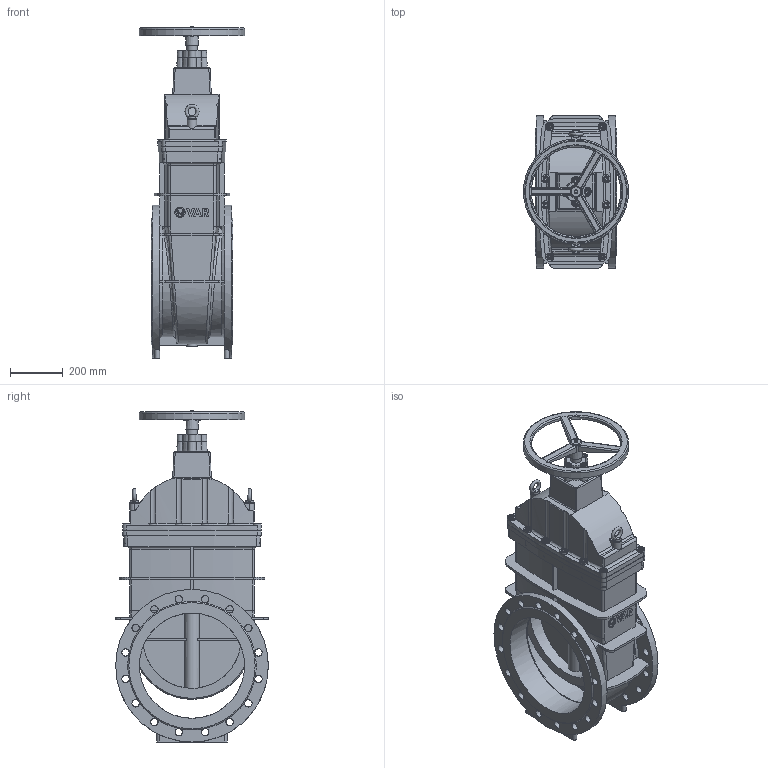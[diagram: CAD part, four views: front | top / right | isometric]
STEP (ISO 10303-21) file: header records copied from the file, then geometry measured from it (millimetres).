
FILE_DESCRIPTION(('STEP AP242'), '1');
FILE_NAME('青溻桄赅', '', ('UNSPECIFIED'), ('UNSPECIFIED'), 'C3D Converter', 'C3D Toolkit', '');
FILE_SCHEMA(('AP242_MANAGED_MODEL_BASED_3D_ENGINEERING_MIM_LF { 1 0 10303 442 1 1 4 }'));
Length unit declared in the file: millimetre
Assembly tree (27 placements, depth 2):
  (unnamed)
    (unnamed)
    (unnamed)
    (unnamed)
    (unnamed)
    (unnamed)  x2
    (unnamed)
    (unnamed)
    (unnamed)  x12
    (unnamed)  x4
    (unnamed)
    (unnamed)  x2
Bounding box: 400 x 580 x 1261.6 mm (x, y, z)
Volume: 34808527.2 mm3; surface area: 4993818.5 mm2
Topology: 30 solids, 30 shells, 1381 faces, 3495 edges, 2208 vertices
Faces by surface type: plane 649, cylinder 330, cone 130, extrusion 119, bspline 105, torus 48
Full cylindrical faces by diameter (mm): 4.917 x1, 6 x3, 12 x20, 14 x60, 21 x32, 28 x32, 38.88 x1, 40 x8, 58.667 x5, 340 x1, 350 x1, 372 x2, 390 x1, 400 x5, 433.6 x4, 456 x1, 580 x2
Entity records: 67527 total; most frequent: CARTESIAN_POINT 40175, ORIENTED_EDGE 5122, DIRECTION 4387, EDGE_CURVE 2561, VERTEX_POINT 1756, AXIS2_PLACEMENT_3D 1621, EDGE_LOOP 1407, VECTOR 1145
